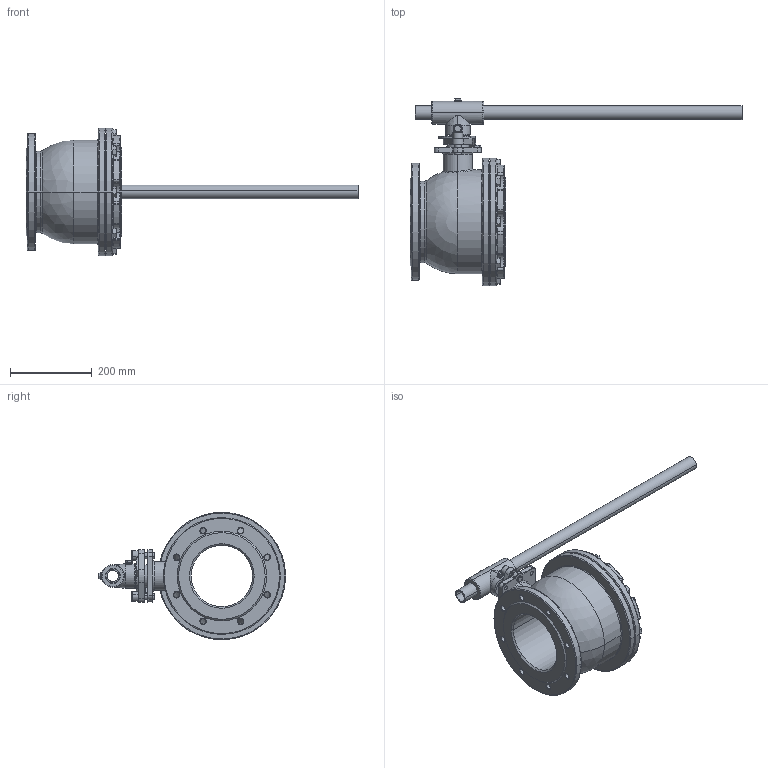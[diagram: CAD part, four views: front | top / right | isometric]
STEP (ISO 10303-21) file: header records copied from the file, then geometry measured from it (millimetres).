
FILE_DESCRIPTION (( 'STEP AP214' ), '1' );
FILE_NAME ('S15F DN150 HB.step', '2011-04-21T13:01:10', ( '' ), ( '' ), 'SwSTEP 2.0', 'SolidWorks 2011', '' );
FILE_SCHEMA (( 'AUTOMOTIVE_DESIGN' ));
Length unit declared in the file: millimetre
Products named in the file (9): hex screw gradeab_din_ISO 4017 - M8 x 16-N; hex screw gradeab_din_ISO 4017 - M10 x 20-N; S15F Handgreep Stang DN150; S15F Handgreep T-stuk DN150; circlip for shafts normal_din_Circlip DIN 471 - 38 x 1.75; Eindaanslagplaat AS38 SW26; Socket Head Cap Screw_DIN_DIN 912 M16 x 40 --- 40N; S15F KK DN150 PN16; S15F DN150 HB
Assembly tree (9 placements, depth 2):
  S15F DN150 HB
    S15F Handgreep Stang DN150
    S15F Handgreep T-stuk DN150
    hex screw gradeab_din_ISO 4017 - M8 x 16-N
    Eindaanslagplaat AS38 SW26
    circlip for shafts normal_din_Circlip DIN 471 - 38 x 1.75
    S15F KK DN150 PN16
    Socket Head Cap Screw_DIN_DIN 912 M16 x 40 --- 40N  x2
    hex screw gradeab_din_ISO 4017 - M10 x 20-N
Bounding box: 812.39 x 458.15 x 312 mm (x, y, z)
Volume: 8978332.3 mm3; surface area: 809679.7 mm2
Topology: 9 solids, 9 shells, 644 faces, 1508 edges, 897 vertices
Faces by surface type: cylinder 218, plane 177, torus 156, cone 88, bspline 3, sphere 2
Entity records: 19562 total; most frequent: CARTESIAN_POINT 3958, DIRECTION 3424, ORIENTED_EDGE 2856, EDGE_CURVE 1428, AXIS2_PLACEMENT_3D 1419, VERTEX_POINT 862, CIRCLE 793, EDGE_LOOP 704
